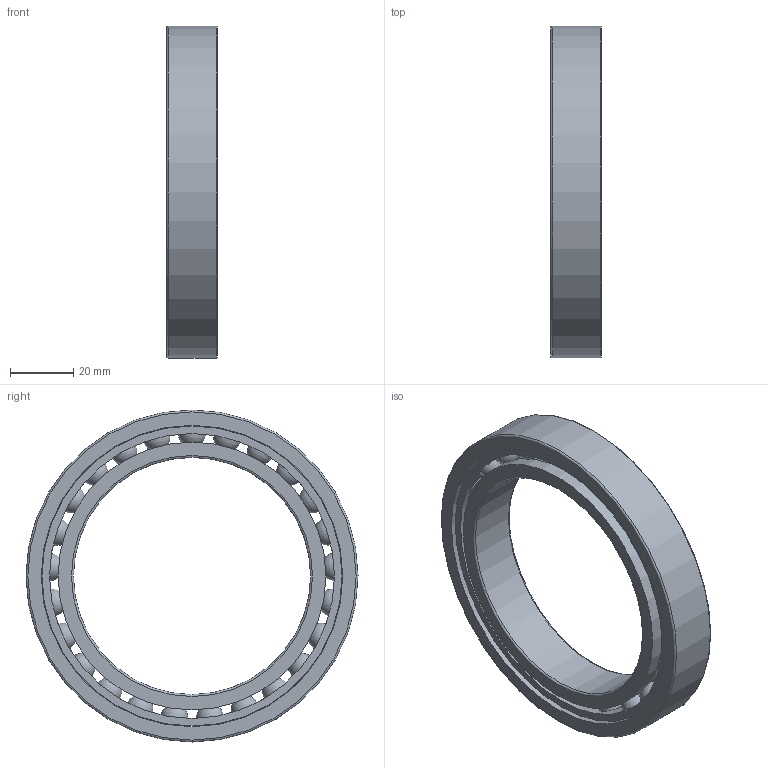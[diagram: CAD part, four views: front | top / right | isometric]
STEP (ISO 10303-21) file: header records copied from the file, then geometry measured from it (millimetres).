
FILE_DESCRIPTION(/* description */ (''),/* implementation_level */ '2;1');
FILE_NAME(/* name */ 'SM_61915_TA.step',/* time_stamp */ '2013-03-11T11:35:49+01:00',/* author */ ('Marian'),/* organization */ ('GMN'),/* preprocessor_version */ 'ST-DEVELOPER v11',/* originating_system */ 'SIEMENS UGS NX 6.0',/* authorisation */ '');
FILE_SCHEMA (('CONFIG_CONTROL_DESIGN'));
Length unit declared in the file: millimetre
Products named in the file (1): SM_61915_TA
Bounding box: 16 x 105 x 105 mm (x, y, z)
Volume: 49950.9 mm3; surface area: 36757.6 mm2
Topology: 28 solids, 28 shells, 70 faces, 184 edges, 120 vertices
Faces by surface type: cylinder 32, sphere 25, torus 6, plane 6, cone 1
Full cylindrical faces by diameter (mm): 8.931 x25, 75 x1, 84.7 x2, 90.111 x1, 94.9 x1, 95.3 x1, 105 x1
Entity records: 4348 total; most frequent: CARTESIAN_POINT 3086, DIRECTION 182, FACE_BOUND 165, EDGE_LOOP 140, ORIENTED_EDGE 140, VERTEX_POINT 95, AXIS2_PLACEMENT_3D 91, EDGE_CURVE 70
